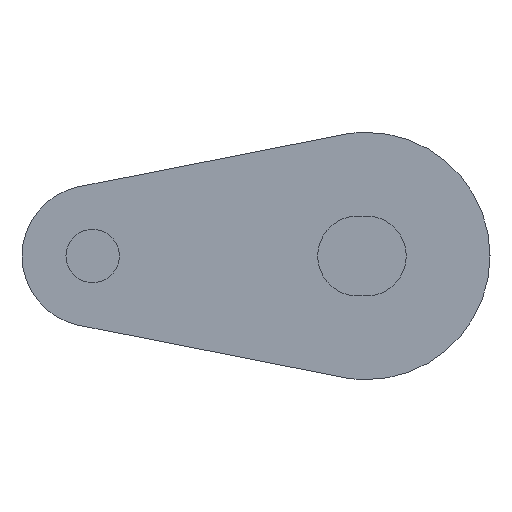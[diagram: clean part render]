
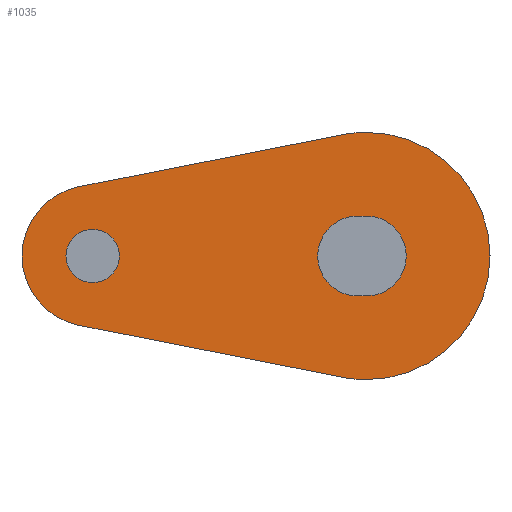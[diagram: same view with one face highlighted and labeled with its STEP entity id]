
A CAD part, left-side view. The second image highlights one B-rep face of the part: STEP entity #1035.
In plain terms, the highlighted planar face has unit normal (-1, 0, 0).
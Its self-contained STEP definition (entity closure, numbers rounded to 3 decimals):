
#1 = FACE_BOUND ( 'NONE', #273, .T. ) ;
#8 = CIRCLE ( 'NONE', #932, 7. ) ;
#9 = FACE_BOUND ( 'NONE', #272, .T. ) ;
#21 = CIRCLE ( 'NONE', #925, 1.51 ) ;
#22 = VECTOR ( 'NONE', #613, 1000. ) ;
#25 = VECTOR ( 'NONE', #630, 1000. ) ;
#26 = LINE ( 'NONE', #631, #25 ) ;
#38 = LINE ( 'NONE', #614, #22 ) ;
#42 = CIRCLE ( 'NONE', #968, 2.26 ) ;
#55 = CIRCLE ( 'NONE', #927, 1.51 ) ;
#65 = CIRCLE ( 'NONE', #876, 4. ) ;
#69 = CIRCLE ( 'NONE', #994, 7. ) ;
#89 = VECTOR ( 'NONE', #759, 1000. ) ;
#92 = LINE ( 'NONE', #760, #89 ) ;
#99 = CIRCLE ( 'NONE', #934, 7. ) ;
#103 = VECTOR ( 'NONE', #795, 1000. ) ;
#110 = LINE ( 'NONE', #799, #103 ) ;
#118 = CIRCLE ( 'NONE', #909, 2.26 ) ;
#134 = ORIENTED_EDGE ( 'NONE', *, *, #993, .T. ) ;
#135 = ORIENTED_EDGE ( 'NONE', *, *, #999, .T. ) ;
#138 = ORIENTED_EDGE ( 'NONE', *, *, #976, .T. ) ;
#139 = ORIENTED_EDGE ( 'NONE', *, *, #961, .T. ) ;
#140 = ORIENTED_EDGE ( 'NONE', *, *, #1011, .T. ) ;
#141 = ORIENTED_EDGE ( 'NONE', *, *, #877, .T. ) ;
#147 = ORIENTED_EDGE ( 'NONE', *, *, #898, .F. ) ;
#148 = ORIENTED_EDGE ( 'NONE', *, *, #901, .F. ) ;
#149 = ORIENTED_EDGE ( 'NONE', *, *, #936, .F. ) ;
#150 = ORIENTED_EDGE ( 'NONE', *, *, #1019, .F. ) ;
#151 = ORIENTED_EDGE ( 'NONE', *, *, #952, .F. ) ;
#152 = ORIENTED_EDGE ( 'NONE', *, *, #949, .F. ) ;
#272 = EDGE_LOOP ( 'NONE', ( #141, #140, #138, #134 ) ) ;
#273 = EDGE_LOOP ( 'NONE', ( #139, #135 ) ) ;
#321 = EDGE_LOOP ( 'NONE', ( #151, #149, #148, #150, #152, #147 ) ) ;
#341 = FACE_OUTER_BOUND ( 'NONE', #321, .T. ) ;
#448 = CARTESIAN_POINT ( 'NONE',  ( -153.5, 15.5, 1.51 ) ) ;
#464 = CARTESIAN_POINT ( 'NONE',  ( -153.5, 16.274, -3.924 ) ) ;
#468 = CARTESIAN_POINT ( 'NONE',  ( -153.5, 15.5, -1.51 ) ) ;
#509 = CARTESIAN_POINT ( 'NONE',  ( -153.5, 0., -2.26 ) ) ;
#513 = CARTESIAN_POINT ( 'NONE',  ( -153.5, 0., -7. ) ) ;
#523 = CARTESIAN_POINT ( 'NONE',  ( -153.5, 0.5, 2.26 ) ) ;
#531 = CARTESIAN_POINT ( 'NONE',  ( -153.5, 1.355, 6.868 ) ) ;
#556 = CARTESIAN_POINT ( 'NONE',  ( -153.5, 16.274, 3.924 ) ) ;
#570 = DIRECTION ( 'NONE',  ( 0., 0., -1. ) ) ;
#571 = DIRECTION ( 'NONE',  ( -1., 0., 0. ) ) ;
#575 = PLANE ( 'NONE',  #870 ) ;
#583 = CARTESIAN_POINT ( 'NONE',  ( -153.5, 15.5, 0. ) ) ;
#602 = DIRECTION ( 'NONE',  ( 0., 0., -1. ) ) ;
#603 = DIRECTION ( 'NONE',  ( 1., 0., 0. ) ) ;
#610 = CARTESIAN_POINT ( 'NONE',  ( -153.5, 0., 0. ) ) ;
#613 = DIRECTION ( 'NONE',  ( 0., -1., 0. ) ) ;
#614 = CARTESIAN_POINT ( 'NONE',  ( -153.5, 0.5, 2.26 ) ) ;
#622 = CARTESIAN_POINT ( 'NONE',  ( -153.5, 0., 2.26 ) ) ;
#623 = DIRECTION ( 'NONE',  ( 0., 0., -1. ) ) ;
#624 = DIRECTION ( 'NONE',  ( 1., 0., 0. ) ) ;
#630 = DIRECTION ( 'NONE',  ( 0., 1., 0. ) ) ;
#631 = CARTESIAN_POINT ( 'NONE',  ( -153.5, 0.5, -2.26 ) ) ;
#642 = CARTESIAN_POINT ( 'NONE',  ( -153.5, 15.5, 0. ) ) ;
#650 = CARTESIAN_POINT ( 'NONE',  ( -153.5, 0., 7. ) ) ;
#668 = DIRECTION ( 'NONE',  ( 0., 0., -1. ) ) ;
#670 = DIRECTION ( 'NONE',  ( 1., 0., 0. ) ) ;
#676 = CARTESIAN_POINT ( 'NONE',  ( -153.5, 0., 0. ) ) ;
#686 = CARTESIAN_POINT ( 'NONE',  ( -153.5, 0.5, -2.26 ) ) ;
#694 = VERTEX_POINT ( 'NONE', #843 ) ;
#695 = DIRECTION ( 'NONE',  ( 0., 0., -1. ) ) ;
#696 = DIRECTION ( 'NONE',  ( 1., 0., 0. ) ) ;
#699 = VERTEX_POINT ( 'NONE', #686 ) ;
#706 = CARTESIAN_POINT ( 'NONE',  ( -153.5, 15.5, 0. ) ) ;
#720 = DIRECTION ( 'NONE',  ( 0., 0., -1. ) ) ;
#722 = DIRECTION ( 'NONE',  ( 1., 0., 0. ) ) ;
#732 = DIRECTION ( 'NONE',  ( 0., 0., -1. ) ) ;
#733 = DIRECTION ( 'NONE',  ( 1., 0., 0. ) ) ;
#735 = CARTESIAN_POINT ( 'NONE',  ( -153.5, 15.5, 0. ) ) ;
#738 = CARTESIAN_POINT ( 'NONE',  ( -153.5, 0., 0. ) ) ;
#743 = VERTEX_POINT ( 'NONE', #650 ) ;
#759 = DIRECTION ( 'NONE',  ( 0., 0.981, 0.194 ) ) ;
#760 = CARTESIAN_POINT ( 'NONE',  ( -153.5, 1.355, -6.868 ) ) ;
#765 = VERTEX_POINT ( 'NONE', #622 ) ;
#785 = VERTEX_POINT ( 'NONE', #556 ) ;
#791 = DIRECTION ( 'NONE',  ( 0., 0., -1. ) ) ;
#792 = DIRECTION ( 'NONE',  ( 1., 0., 0. ) ) ;
#794 = CARTESIAN_POINT ( 'NONE',  ( -153.5, 0., 0. ) ) ;
#795 = DIRECTION ( 'NONE',  ( 0., -0.981, 0.194 ) ) ;
#799 = CARTESIAN_POINT ( 'NONE',  ( -153.5, 16.274, 3.924 ) ) ;
#805 = VERTEX_POINT ( 'NONE', #531 ) ;
#806 = VERTEX_POINT ( 'NONE', #523 ) ;
#811 = VERTEX_POINT ( 'NONE', #513 ) ;
#812 = VERTEX_POINT ( 'NONE', #509 ) ;
#827 = VERTEX_POINT ( 'NONE', #468 ) ;
#828 = VERTEX_POINT ( 'NONE', #464 ) ;
#835 = VERTEX_POINT ( 'NONE', #448 ) ;
#843 = CARTESIAN_POINT ( 'NONE',  ( -153.5, 1.355, -6.868 ) ) ;
#850 = DIRECTION ( 'NONE',  ( 0., 0., -1. ) ) ;
#851 = DIRECTION ( 'NONE',  ( 1., 0., 0. ) ) ;
#852 = CARTESIAN_POINT ( 'NONE',  ( -153.5, 0.5, 0. ) ) ;
#870 = AXIS2_PLACEMENT_3D ( 'NONE', #583, #571, #570 ) ;
#876 = AXIS2_PLACEMENT_3D ( 'NONE', #735, #722, #720 ) ;
#877 = EDGE_CURVE ( 'NONE', #699, #806, #118, .T. ) ;
#898 = EDGE_CURVE ( 'NONE', #785, #805, #110, .T. ) ;
#901 = EDGE_CURVE ( 'NONE', #811, #694, #99, .T. ) ;
#909 = AXIS2_PLACEMENT_3D ( 'NONE', #852, #851, #850 ) ;
#925 = AXIS2_PLACEMENT_3D ( 'NONE', #642, #624, #623 ) ;
#927 = AXIS2_PLACEMENT_3D ( 'NONE', #706, #696, #695 ) ;
#932 = AXIS2_PLACEMENT_3D ( 'NONE', #610, #603, #602 ) ;
#934 = AXIS2_PLACEMENT_3D ( 'NONE', #794, #792, #791 ) ;
#936 = EDGE_CURVE ( 'NONE', #694, #828, #92, .T. ) ;
#949 = EDGE_CURVE ( 'NONE', #805, #743, #69, .T. ) ;
#952 = EDGE_CURVE ( 'NONE', #828, #785, #65, .T. ) ;
#961 = EDGE_CURVE ( 'NONE', #827, #835, #55, .T. ) ;
#968 = AXIS2_PLACEMENT_3D ( 'NONE', #676, #670, #668 ) ;
#976 = EDGE_CURVE ( 'NONE', #765, #812, #42, .T. ) ;
#993 = EDGE_CURVE ( 'NONE', #812, #699, #26, .T. ) ;
#994 = AXIS2_PLACEMENT_3D ( 'NONE', #738, #733, #732 ) ;
#999 = EDGE_CURVE ( 'NONE', #835, #827, #21, .T. ) ;
#1011 = EDGE_CURVE ( 'NONE', #806, #765, #38, .T. ) ;
#1019 = EDGE_CURVE ( 'NONE', #743, #811, #8, .T. ) ;
#1035 = ADVANCED_FACE ( 'NONE', ( #9, #1, #341 ), #575, .T. ) ;
